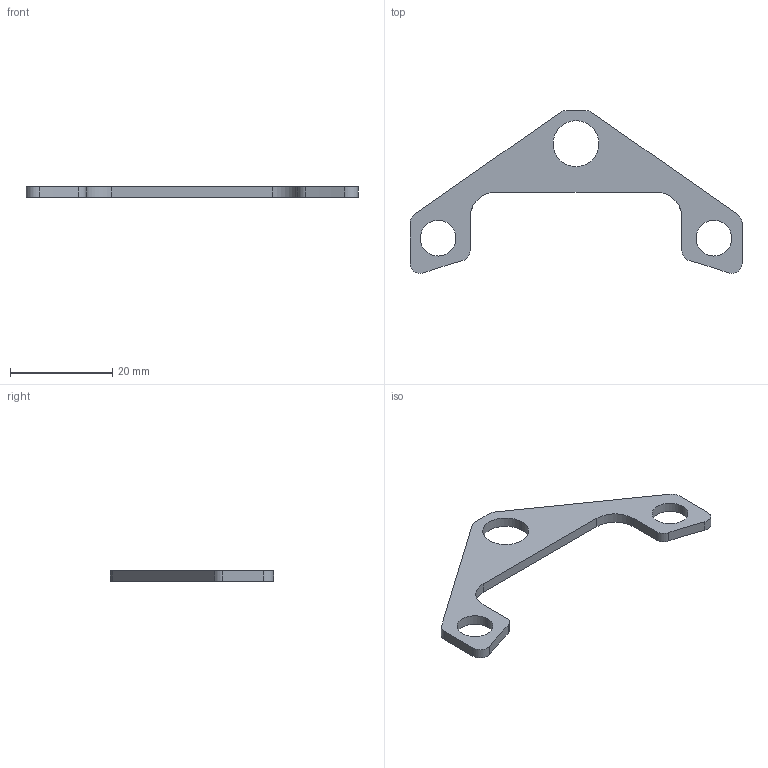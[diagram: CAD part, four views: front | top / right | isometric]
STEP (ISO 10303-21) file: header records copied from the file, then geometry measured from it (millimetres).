
FILE_DESCRIPTION (( 'STEP AP214' ), '1' );
FILE_NAME ('NTS317-B-BRACKET.STEP', '2025-01-10T03:05:32', ( '' ), ( '' ), 'SwSTEP 2.0', 'SolidWorks 2022', '' );
FILE_SCHEMA (( 'AUTOMOTIVE_DESIGN' ));
Length unit declared in the file: millimetre
Products named in the file (1): NTS317-B-BRACKET
Bounding box: 65 x 31.92 x 2 mm (x, y, z)
Volume: 1249.6 mm3; surface area: 1763.6 mm2
Topology: 1 solids, 1 shells, 28 faces, 78 edges, 52 vertices
Faces by surface type: cylinder 18, plane 10
Entity records: 964 total; most frequent: DIRECTION 172, CARTESIAN_POINT 159, ORIENTED_EDGE 156, EDGE_CURVE 78, AXIS2_PLACEMENT_3D 65, VERTEX_POINT 52, VECTOR 42, LINE 42
